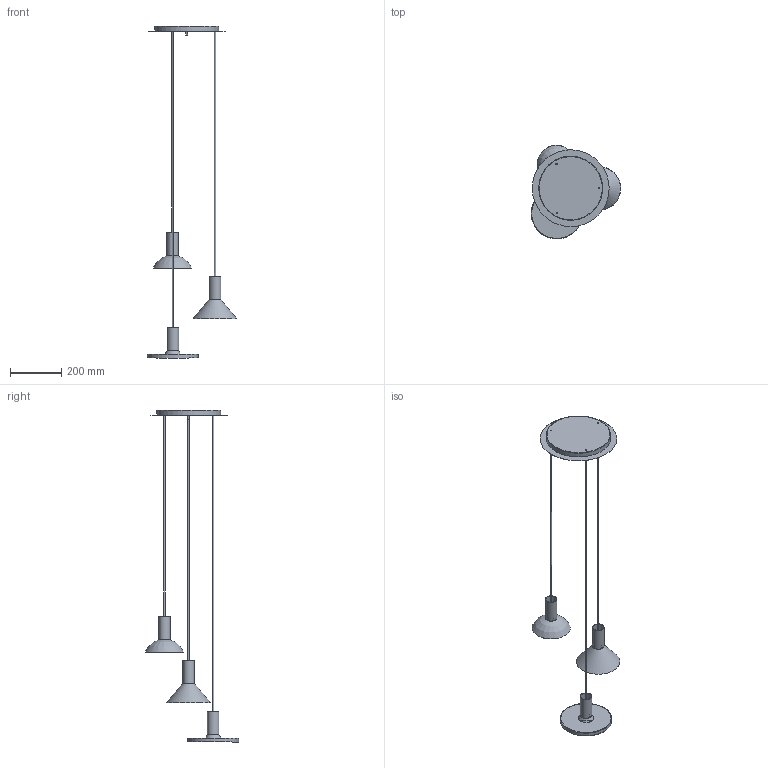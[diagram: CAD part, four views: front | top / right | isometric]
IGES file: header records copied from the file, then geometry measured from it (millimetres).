
Start section: SolidWorks IGES file using analytic representation for surfaces
Global section: file name: X:\PRODUKT\Modele 3D_WWW\_KOLEKCJE WWW\HERMANOS\8030\HERMANOS-III-8030.IGS; native system: SolidWorks 2021; preprocessor: SolidWorks 2021; author: gabriela.tworek; date: 220912.075442; units: millimetre
Bounding box: 349.31 x 365.33 x 1295.92 mm (x, y, z)
Surface area: 601413.5 mm2 (no closed solid volume)
Topology: 0 solids, 0 shells, 76 faces, 190 edges, 144 vertices
Faces by surface type: revolution 46, bspline 30
